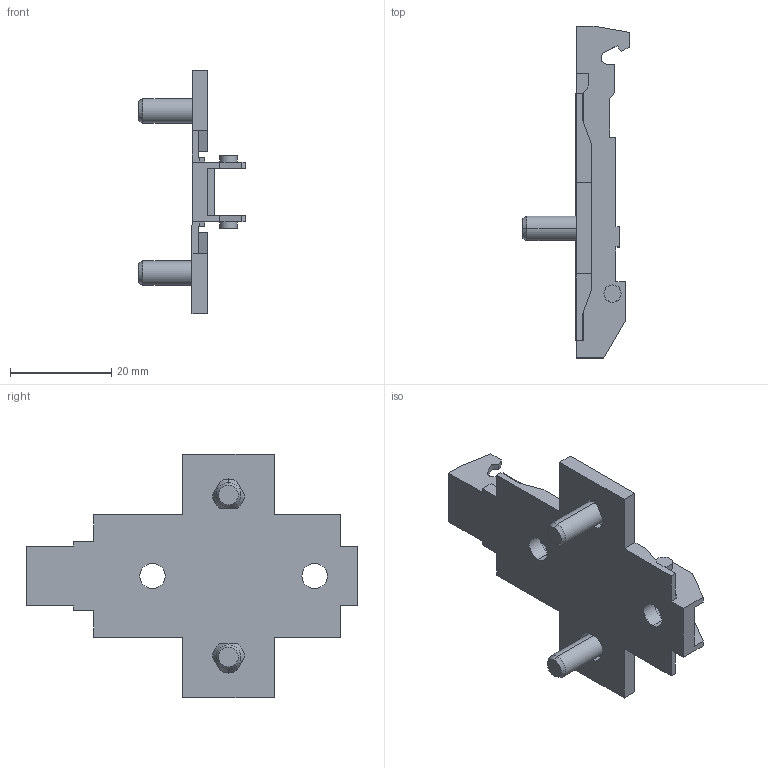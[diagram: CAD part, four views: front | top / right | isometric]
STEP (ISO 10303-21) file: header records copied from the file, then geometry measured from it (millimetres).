
FILE_DESCRIPTION (( 'STEP AP214' ), '1' );
FILE_NAME ('1D_Kreuzmontageplatte 37_32_Euro_vorgestellt 13,5_0.step', '2010-11-18T10:18:16', ( 'grass' ), ( '' ), 'SwSTEP 2.0', 'SolidWorks 2010', '' );
FILE_SCHEMA (( 'AUTOMOTIVE_DESIGN' ));
Length unit declared in the file: millimetre
Products named in the file (1): 1D_Kreuzmontageplatte 37_32_Euro_vorgestellt 13,5_0
Bounding box: 21 x 65.5 x 48 mm (x, y, z)
Volume: 6104.5 mm3; surface area: 6397.6 mm2
Topology: 1 solids, 1 shells, 140 faces, 400 edges, 260 vertices
Faces by surface type: plane 94, cylinder 34, cone 12
Entity records: 4642 total; most frequent: CARTESIAN_POINT 893, ORIENTED_EDGE 800, DIRECTION 742, EDGE_CURVE 400, VECTOR 300, LINE 300, VERTEX_POINT 260, AXIS2_PLACEMENT_3D 221
